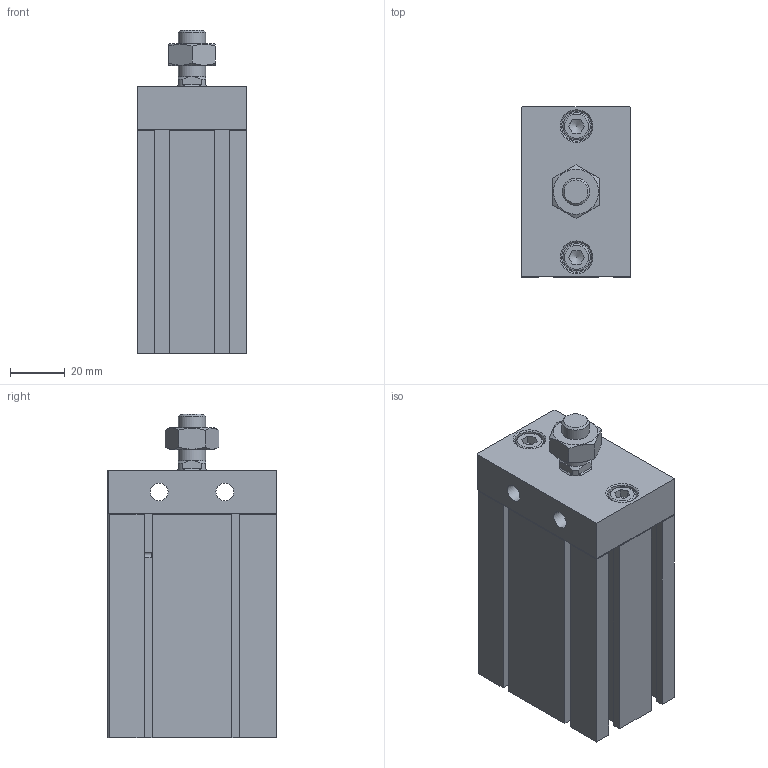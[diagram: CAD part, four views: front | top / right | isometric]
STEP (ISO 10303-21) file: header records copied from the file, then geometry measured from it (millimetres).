
FILE_DESCRIPTION((''),'2;1');
FILE_NAME('I:\3D電子目錄\氣缸\ND\ND\ND32-B\ND32x50-B.stp','2007-07-24T20:10:20',('Administrator'),(''),'Autodesk Inventor 11','Autodesk Inventor 11','');
FILE_SCHEMA(('AUTOMOTIVE_DESIGN { 1 0 10303 214 1 1 1 1 }'));
Length unit declared in the file: millimetre
Products named in the file (4): ND32-B; R 形環 34; ISO 4762 M6 x 16
Assembly tree (4 placements, depth 2):
  ND32-B
    ND32-B
    R 形環 34
    ISO 4762 M6 x 16  x2
Bounding box: 40 x 62.1 x 118.5 mm (x, y, z)
Volume: 216469.5 mm3; surface area: 43600.6 mm2
Topology: 5 solids, 5 shells, 205 faces, 501 edges, 319 vertices
Faces by surface type: plane 141, cylinder 27, cone 20, bspline 14, torus 3
Full cylindrical faces by diameter (mm): 1.9 x2, 2.2 x2, 6 x2, 6.5 x2, 10 x4, 11 x2, 23 x1, 34 x1, 36 x1
Entity records: 5531 total; most frequent: CARTESIAN_POINT 1147, DIRECTION 860, ORIENTED_EDGE 844, EDGE_CURVE 422, VECTOR 302, LINE 302, VERTEX_POINT 292, AXIS2_PLACEMENT_3D 279
